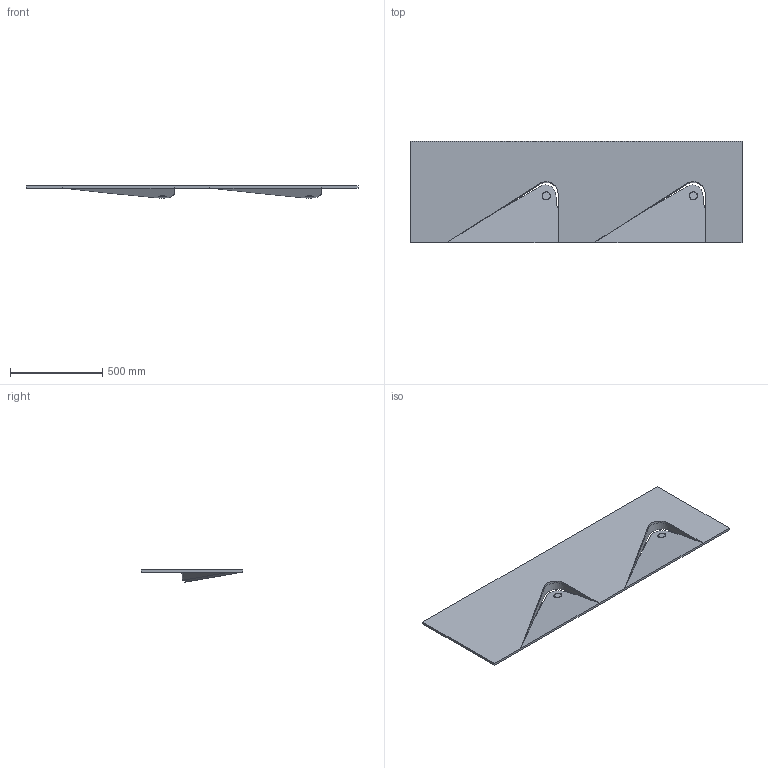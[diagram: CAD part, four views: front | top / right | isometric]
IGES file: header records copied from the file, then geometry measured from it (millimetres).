
Start section:  Autodesk Design for Windows version 2010 IGES version 5.3  Autodesk Design for Windows version 2010 IGES version 5.3
Global section: file name: D:\Desktop\GIOVANNI\SCHEDE PRODOTTO\PIANI LAVABO\FLAT\3D\MOMA DESIGN_PIANI LAVABO_FLAT MODULE DOUBLE.igs; native system: Rhinoceros ( Jan 17 2018 ); preprocessor: Trout Lake IGES 012 Jan 17 2018; date: 230606.130808; units: millimetre
Bounding box: 1800 x 550 x 66.19 mm (x, y, z)
Surface area: 2108189.1 mm2 (no closed solid volume)
Topology: 0 solids, 0 shells, 40 faces, 374 edges, 364 vertices
Faces by surface type: bspline 40
